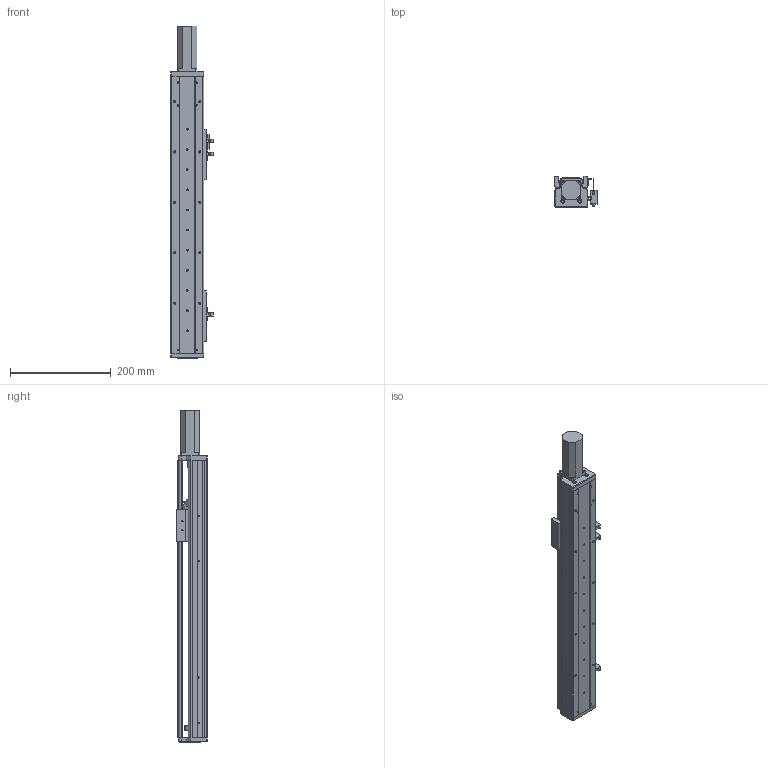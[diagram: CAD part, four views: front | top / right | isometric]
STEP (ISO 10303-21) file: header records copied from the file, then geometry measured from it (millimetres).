
FILE_DESCRIPTION (( 'STEP AP203' ), '1' );
FILE_NAME ('RY60-L1210-300-MK.SLDASM_350.step', '2021-02-20T01:55:52', ( '' ), ( '' ), 'SwSTEP 2.0', 'SolidWorks 2012', '' );
FILE_SCHEMA (( 'CONFIG_CONTROL_DESIGN' ));
Length unit declared in the file: millimetre
Products named in the file (13): SFN1210螺母(没线割）; RY60-L1210-300-MK.SLDASM_350; 滅袉蝶18-10; RY60綴裔啣; 滅袉蝶18-20; RY80俋离覜茼え; 侂狟100W; 672嫖萇羲壽假蚾釱; 覜茼ん672; RY60-300倰第菁釱-MK_350; RY60前盖板100(PCD46-M4); RY60-300倰第裔啣-MK_350; RY60臏賑輸
Assembly tree (17 placements, depth 2):
  RY60-L1210-300-MK.SLDASM_350
    RY60-300倰第菁釱-MK_350
    RY60臏賑輸
    RY60-300倰第裔啣-MK_350
    RY60前盖板100(PCD46-M4)
    672嫖萇羲壽假蚾釱  x2
    覜茼ん672  x3
    RY80俋离覜茼え
    侂狟100W
    滅袉蝶18-20  x2
    滅袉蝶18-10  x2
    RY60綴裔啣
    SFN1210螺母(没线割）
Bounding box: 83.7 x 61 x 659 mm (x, y, z)
Volume: 791361.2 mm3; surface area: 373913.5 mm2
Topology: 18 solids, 18 shells, 1104 faces, 3095 edges, 2002 vertices
Faces by surface type: plane 533, cylinder 501, cone 61, bspline 9
Entity records: 35479 total; most frequent: CARTESIAN_POINT 8272, ORIENTED_EDGE 5458, DIRECTION 5282, EDGE_CURVE 2729, AXIS2_PLACEMENT_3D 1830, VERTEX_POINT 1786, VECTOR 1622, LINE 1622
